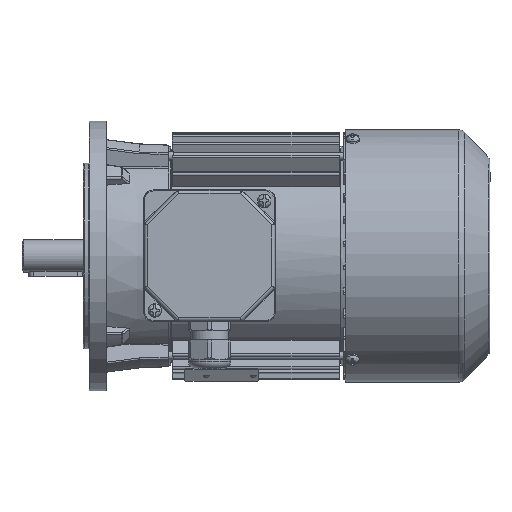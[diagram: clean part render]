
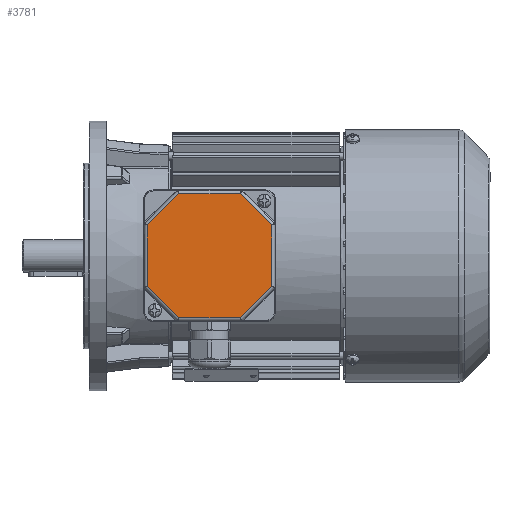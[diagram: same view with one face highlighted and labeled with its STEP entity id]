
A CAD part, top view. The second image highlights one B-rep face of the part: STEP entity #3781.
In plain terms, the highlighted planar face has unit normal (0, 0, 1).
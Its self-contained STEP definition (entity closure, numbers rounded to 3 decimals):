
#3781 = ADVANCED_FACE( '', ( #9686 ), #9687, .T. );
#9686 = FACE_OUTER_BOUND( '', #21456, .T. );
#9687 = PLANE( '', #21457 );
#21456 = EDGE_LOOP( '', ( #70331, #70332, #70333, #70334, #70335, #70336, #70337, #70338 ) );
#21457 = AXIS2_PLACEMENT_3D( '', #70339, #70340, #70341 );
#70331 = ORIENTED_EDGE( '', *, *, #93876, .T. );
#70332 = ORIENTED_EDGE( '', *, *, #93877, .T. );
#70333 = ORIENTED_EDGE( '', *, *, #93878, .T. );
#70334 = ORIENTED_EDGE( '', *, *, #93879, .T. );
#70335 = ORIENTED_EDGE( '', *, *, #93880, .T. );
#70336 = ORIENTED_EDGE( '', *, *, #93881, .T. );
#70337 = ORIENTED_EDGE( '', *, *, #93882, .T. );
#70338 = ORIENTED_EDGE( '', *, *, #93883, .T. );
#70339 = CARTESIAN_POINT( '', ( -39., 39., 12. ) );
#70340 = DIRECTION( '', ( 0., 0., 1. ) );
#70341 = DIRECTION( '', ( 1., 0., 0. ) );
#93876 = EDGE_CURVE( '', #104416, #104417, #104418, .F. );
#93877 = EDGE_CURVE( '', #104417, #104419, #104420, .T. );
#93878 = EDGE_CURVE( '', #104419, #104421, #104422, .F. );
#93879 = EDGE_CURVE( '', #104421, #103004, #104423, .T. );
#93880 = EDGE_CURVE( '', #103004, #104424, #104425, .F. );
#93881 = EDGE_CURVE( '', #104424, #104426, #104427, .T. );
#93882 = EDGE_CURVE( '', #104426, #104428, #104429, .F. );
#93883 = EDGE_CURVE( '', #104428, #104416, #104430, .T. );
#103004 = VERTEX_POINT( '', #117741 );
#104416 = VERTEX_POINT( '', #122716 );
#104417 = VERTEX_POINT( '', #122717 );
#104418 = LINE( '', #122718, #122719 );
#104419 = VERTEX_POINT( '', #122720 );
#104420 = LINE( '', #122721, #122722 );
#104421 = VERTEX_POINT( '', #122723 );
#104422 = LINE( '', #122724, #122725 );
#104423 = LINE( '', #122726, #122727 );
#104424 = VERTEX_POINT( '', #122728 );
#104425 = LINE( '', #122729, #122730 );
#104426 = VERTEX_POINT( '', #122731 );
#104427 = LINE( '', #122732, #122733 );
#104428 = VERTEX_POINT( '', #122734 );
#104429 = LINE( '', #122735, #122736 );
#104430 = LINE( '', #122737, #122738 );
#117741 = CARTESIAN_POINT( '', ( -36.825, 18.255, 12. ) );
#122716 = CARTESIAN_POINT( '', ( 36.825, -18.255, 12. ) );
#122717 = CARTESIAN_POINT( '', ( 36.825, 18.255, 12. ) );
#122718 = CARTESIAN_POINT( '', ( 36.825, 19.069, 12. ) );
#122719 = VECTOR( '', #167853, 1000. );
#122720 = CARTESIAN_POINT( '', ( 18.255, 36.825, 12. ) );
#122721 = CARTESIAN_POINT( '', ( 17.679, 37.401, 12. ) );
#122722 = VECTOR( '', #167854, 1000. );
#122723 = CARTESIAN_POINT( '', ( -18.255, 36.825, 12. ) );
#122724 = CARTESIAN_POINT( '', ( -19.069, 36.825, 12. ) );
#122725 = VECTOR( '', #167855, 1000. );
#122726 = CARTESIAN_POINT( '', ( -37.401, 17.679, 12. ) );
#122727 = VECTOR( '', #167856, 1000. );
#122728 = CARTESIAN_POINT( '', ( -36.825, -18.255, 12. ) );
#122729 = CARTESIAN_POINT( '', ( -36.825, -19.069, 12. ) );
#122730 = VECTOR( '', #167857, 1000. );
#122731 = CARTESIAN_POINT( '', ( -18.255, -36.825, 12. ) );
#122732 = CARTESIAN_POINT( '', ( -17.679, -37.401, 12. ) );
#122733 = VECTOR( '', #167858, 1000. );
#122734 = CARTESIAN_POINT( '', ( 18.255, -36.825, 12. ) );
#122735 = CARTESIAN_POINT( '', ( 19.069, -36.825, 12. ) );
#122736 = VECTOR( '', #167859, 1000. );
#122737 = CARTESIAN_POINT( '', ( 37.401, -17.679, 12. ) );
#122738 = VECTOR( '', #167860, 1000. );
#167853 = DIRECTION( '', ( 0., -1., 0. ) );
#167854 = DIRECTION( '', ( -0.707, 0.707, 0. ) );
#167855 = DIRECTION( '', ( 1., 0., 0. ) );
#167856 = DIRECTION( '', ( -0.707, -0.707, 0. ) );
#167857 = DIRECTION( '', ( 0., 1., 0. ) );
#167858 = DIRECTION( '', ( 0.707, -0.707, 0. ) );
#167859 = DIRECTION( '', ( -1., 0., 0. ) );
#167860 = DIRECTION( '', ( 0.707, 0.707, 0. ) );
